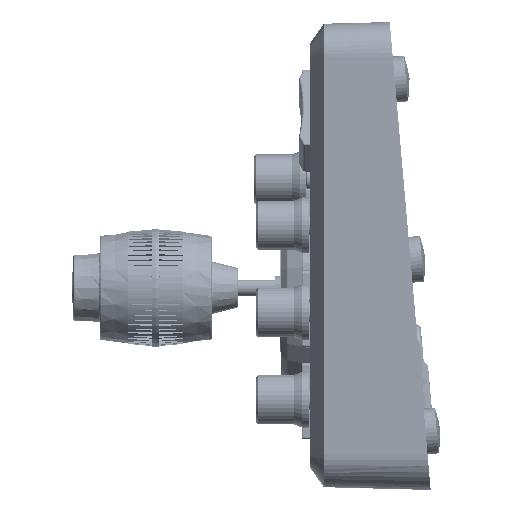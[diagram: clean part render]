
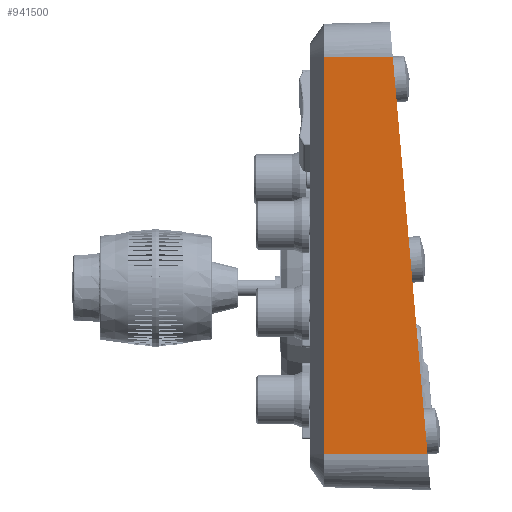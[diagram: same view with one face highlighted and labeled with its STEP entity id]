
A CAD part, left-side view. The second image highlights one B-rep face of the part: STEP entity #941500.
In plain terms, the highlighted planar face has unit normal (-1, 0.026, 0).
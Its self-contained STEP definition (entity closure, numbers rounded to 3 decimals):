
#16907 = CARTESIAN_POINT ( 'NONE',  ( -127.5, 5.253, -60.037 ) ) ;
#27427 = LINE ( 'NONE', #320250, #817098 ) ;
#44388 = EDGE_LOOP ( 'NONE', ( #334109, #820103, #150780, #222418 ) ) ;
#85581 = VERTEX_POINT ( 'NONE', #349172 ) ;
#130619 = DIRECTION ( 'NONE',  ( 0., 0.087, -0.996 ) ) ;
#150780 = ORIENTED_EDGE ( 'NONE', *, *, #494187, .T. ) ;
#172839 = CARTESIAN_POINT ( 'NONE',  ( -127.612, -9.513, 59.627 ) ) ;
#199282 = DIRECTION ( 'NONE',  ( 0.026, 0.996, 0.087 ) ) ;
#202712 = DIRECTION ( 'NONE',  ( -0.026, -1., 0. ) ) ;
#216504 = EDGE_CURVE ( 'NONE', #85581, #598934, #27427, .T. ) ;
#222194 = CARTESIAN_POINT ( 'NONE',  ( -128.437, -30.376, -63.154 ) ) ;
#222418 = ORIENTED_EDGE ( 'NONE', *, *, #216504, .F. ) ;
#301579 = EDGE_CURVE ( 'NONE', #552507, #617185, #495531, .T. ) ;
#309772 = DIRECTION ( 'NONE',  ( -0.026, -0.996, -0.087 ) ) ;
#320250 = CARTESIAN_POINT ( 'NONE',  ( -128.46, -30.376, -73.252 ) ) ;
#334109 = ORIENTED_EDGE ( 'NONE', *, *, #728250, .T. ) ;
#349172 = CARTESIAN_POINT ( 'NONE',  ( -128.16, -30.376, 57.802 ) ) ;
#377457 = VECTOR ( 'NONE', #309772, 1000. ) ;
#414131 = FACE_OUTER_BOUND ( 'NONE', #44388, .T. ) ;
#487665 = VECTOR ( 'NONE', #130619, 1000. ) ;
#494187 = EDGE_CURVE ( 'NONE', #617185, #598934, #674819, .T. ) ;
#495531 = LINE ( 'NONE', #788571, #487665 ) ;
#548875 = CARTESIAN_POINT ( 'NONE',  ( -127.612, 0.989, -60.41 ) ) ;
#552507 = VERTEX_POINT ( 'NONE', #172839 ) ;
#564290 = LINE ( 'NONE', #857421, #857929 ) ;
#567689 = CARTESIAN_POINT ( 'NONE',  ( -127.5, -6.124, 70. ) ) ;
#598934 = VERTEX_POINT ( 'NONE', #222194 ) ;
#613217 = DIRECTION ( 'NONE',  ( -0.002, 0., -1. ) ) ;
#617185 = VERTEX_POINT ( 'NONE', #548875 ) ;
#674819 = LINE ( 'NONE', #16907, #377457 ) ;
#707089 = PLANE ( 'NONE',  #806740 ) ;
#728250 = EDGE_CURVE ( 'NONE', #85581, #552507, #564290, .T. ) ;
#788571 = CARTESIAN_POINT ( 'NONE',  ( -127.612, -10.388, 69.627 ) ) ;
#806740 = AXIS2_PLACEMENT_3D ( 'NONE', #567689, #860807, #202712 ) ;
#817098 = VECTOR ( 'NONE', #613217, 1000. ) ;
#820103 = ORIENTED_EDGE ( 'NONE', *, *, #301579, .T. ) ;
#857421 = CARTESIAN_POINT ( 'NONE',  ( -127.5, -5.249, 60. ) ) ;
#857929 = VECTOR ( 'NONE', #199282, 1000. ) ;
#860807 = DIRECTION ( 'NONE',  ( -1., 0.026, 0.002 ) ) ;
#941500 = ADVANCED_FACE ( 'NONE', ( #414131 ), #707089, .T. ) ;
